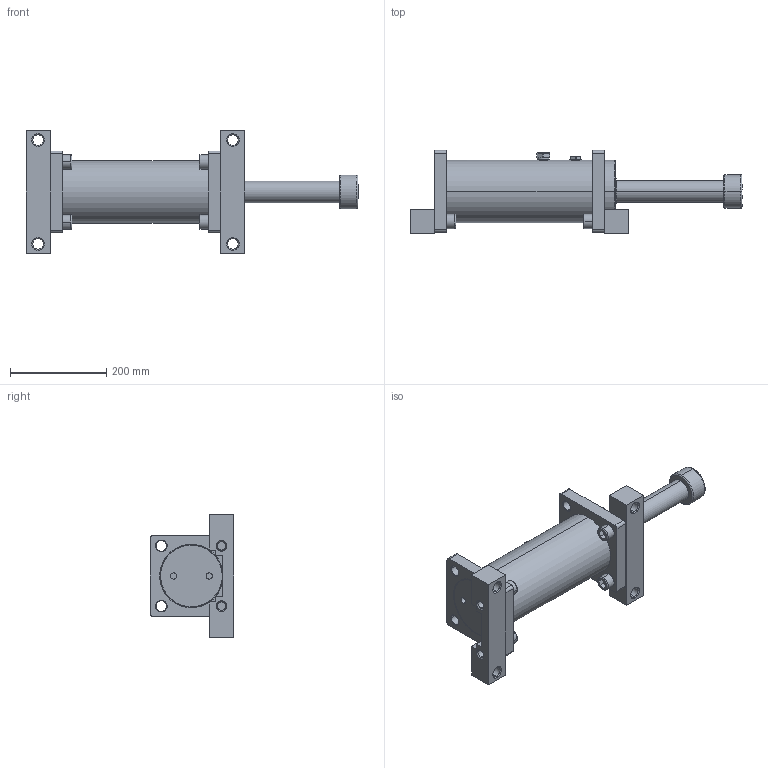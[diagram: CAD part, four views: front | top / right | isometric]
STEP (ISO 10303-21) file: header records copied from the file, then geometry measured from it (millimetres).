
FILE_DESCRIPTION (( 'STEP AP214' ), '1' );
FILE_NAME ('LDD3.0X8.STEP', '2019-01-16T06:59:18', ( 'user' ), ( 'Microsoft' ), 'SwSTEP 2.0', 'SolidWorks 2016', '' );
FILE_SCHEMA (( 'AUTOMOTIVE_DESIGN' ));
Length unit declared in the file: inch
Products named in the file (1): LDD3.0X8
Bounding box: 690 x 172.5 x 255 mm (x, y, z)
Surface area: 492392.5 mm2 (no closed solid volume)
Topology: 0 solids, 21 shells, 285 faces, 754 edges, 501 vertices
Faces by surface type: plane 110, cylinder 93, cone 52, bspline 30
Entity records: 15376 total; most frequent: CARTESIAN_POINT 8358, DIRECTION 1463, ORIENTED_EDGE 1371, EDGE_CURVE 754, AXIS2_PLACEMENT_3D 555, VERTEX_POINT 501, LINE 353, VECTOR 353
